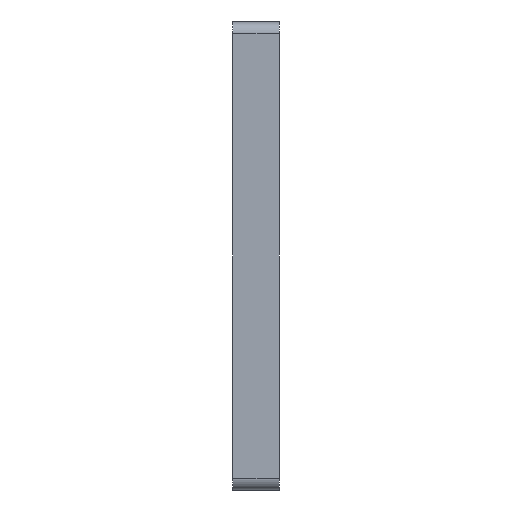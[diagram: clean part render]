
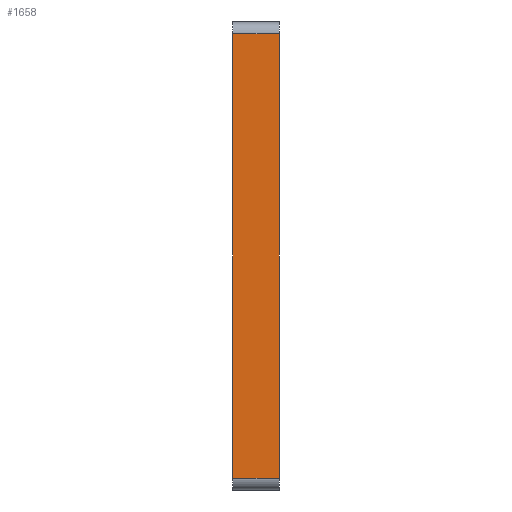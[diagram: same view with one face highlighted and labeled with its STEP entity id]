
A CAD part, left-side view. The second image highlights one B-rep face of the part: STEP entity #1658.
In plain terms, the highlighted planar face has unit normal (-1, 0, 0).
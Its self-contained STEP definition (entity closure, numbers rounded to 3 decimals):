
#39 = EDGE_LOOP ( 'NONE', ( #1285, #1686, #2044, #1648 ) ) ;
#86 = FACE_OUTER_BOUND ( 'NONE', #39, .T. ) ;
#116 = CARTESIAN_POINT ( 'NONE',  ( -54., 0., -40. ) ) ;
#125 = PLANE ( 'NONE',  #1197 ) ;
#203 = VERTEX_POINT ( 'NONE', #1507 ) ;
#315 = EDGE_CURVE ( 'NONE', #1616, #1866, #768, .T. ) ;
#356 = LINE ( 'NONE', #2052, #674 ) ;
#428 = VECTOR ( 'NONE', #1704, 1000. ) ;
#443 = VERTEX_POINT ( 'NONE', #1153 ) ;
#469 = CARTESIAN_POINT ( 'NONE',  ( -54., 0., 38. ) ) ;
#602 = CARTESIAN_POINT ( 'NONE',  ( -54., 8., -38. ) ) ;
#674 = VECTOR ( 'NONE', #1397, 1000. ) ;
#678 = EDGE_CURVE ( 'NONE', #443, #1616, #1665, .T. ) ;
#768 = LINE ( 'NONE', #116, #1503 ) ;
#784 = DIRECTION ( 'NONE',  ( 0., 0., -1. ) ) ;
#940 = CARTESIAN_POINT ( 'NONE',  ( -54., 0., -38. ) ) ;
#1134 = LINE ( 'NONE', #2023, #428 ) ;
#1153 = CARTESIAN_POINT ( 'NONE',  ( -54., 8., -38. ) ) ;
#1197 = AXIS2_PLACEMENT_3D ( 'NONE', #1897, #1237, #784 ) ;
#1237 = DIRECTION ( 'NONE',  ( 1., 0., 0. ) ) ;
#1285 = ORIENTED_EDGE ( 'NONE', *, *, #1613, .F. ) ;
#1397 = DIRECTION ( 'NONE',  ( 0., 1., 0. ) ) ;
#1503 = VECTOR ( 'NONE', #1539, 1000. ) ;
#1507 = CARTESIAN_POINT ( 'NONE',  ( -54., 8., 38. ) ) ;
#1539 = DIRECTION ( 'NONE',  ( 0., 0., 1. ) ) ;
#1613 = EDGE_CURVE ( 'NONE', #443, #203, #1134, .T. ) ;
#1616 = VERTEX_POINT ( 'NONE', #940 ) ;
#1648 = ORIENTED_EDGE ( 'NONE', *, *, #1683, .T. ) ;
#1658 = ADVANCED_FACE ( 'NONE', ( #86 ), #125, .F. ) ;
#1665 = LINE ( 'NONE', #602, #2048 ) ;
#1683 = EDGE_CURVE ( 'NONE', #1866, #203, #356, .T. ) ;
#1686 = ORIENTED_EDGE ( 'NONE', *, *, #678, .T. ) ;
#1704 = DIRECTION ( 'NONE',  ( 0., 0., 1. ) ) ;
#1866 = VERTEX_POINT ( 'NONE', #469 ) ;
#1897 = CARTESIAN_POINT ( 'NONE',  ( -54., 8., -40. ) ) ;
#2023 = CARTESIAN_POINT ( 'NONE',  ( -54., 8., -40. ) ) ;
#2044 = ORIENTED_EDGE ( 'NONE', *, *, #315, .T. ) ;
#2048 = VECTOR ( 'NONE', #2053, 1000. ) ;
#2052 = CARTESIAN_POINT ( 'NONE',  ( -54., 8., 38. ) ) ;
#2053 = DIRECTION ( 'NONE',  ( 0., -1., 0. ) ) ;
